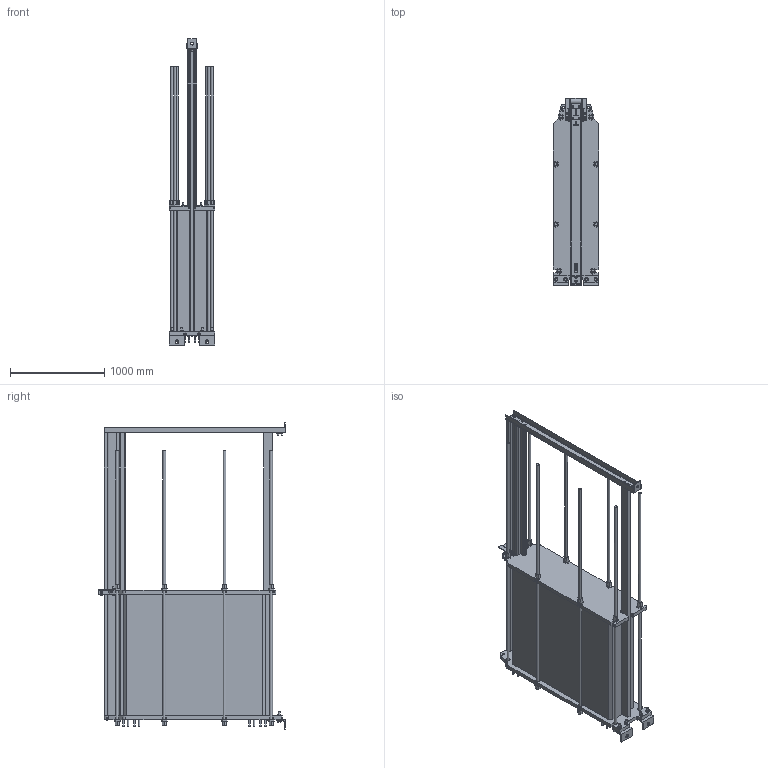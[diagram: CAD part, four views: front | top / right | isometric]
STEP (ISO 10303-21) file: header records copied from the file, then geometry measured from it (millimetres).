
FILE_DESCRIPTION((''),'2;1');
FILE_NAME('c:\temp\TL10_FG_LC3000_AL_01_REV0.stp','2009-06-24T12:33:53',('CNSHFLU'),(''),'Autodesk Inventor 2008','Autodesk Inventor 2008','');
FILE_SCHEMA(('AUTOMOTIVE_DESIGN { 1 0 10303 214 1 1 1 1 }'));
Length unit declared in the file: millimetre
Products named in the file (1): TL10
Bounding box: 483 x 1982.5 x 3245 mm (x, y, z)
Volume: 797583836.5 mm3; surface area: 17321223.3 mm2
Topology: 1 solids, 7 shells, 1443 faces, 3752 edges, 2484 vertices
Faces by surface type: plane 776, cylinder 356, bspline 309, cone 2
Full cylindrical faces by diameter (mm): 3.75 x4, 13 x8, 14 x6, 14.2 x2, 16 x34, 22 x9, 24 x12, 28 x1, 30 x8, 37 x4, 40 x2, 60 x1, 100 x4, 110 x4
Entity records: 43883 total; most frequent: CARTESIAN_POINT 8900, ORIENTED_EDGE 7202, DIRECTION 6685, EDGE_CURVE 3601, VECTOR 2787, LINE 2787, VERTEX_POINT 2466, AXIS2_PLACEMENT_3D 1949
